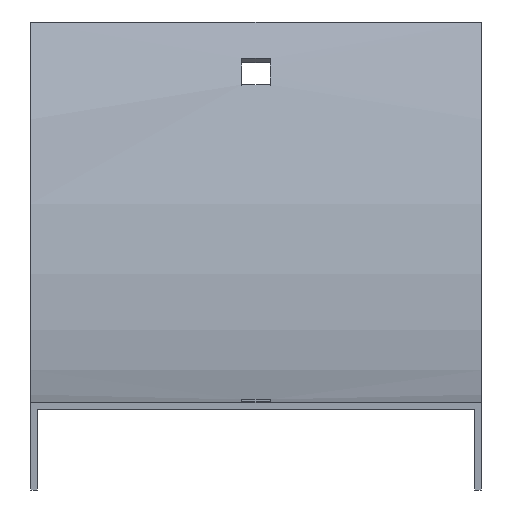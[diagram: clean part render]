
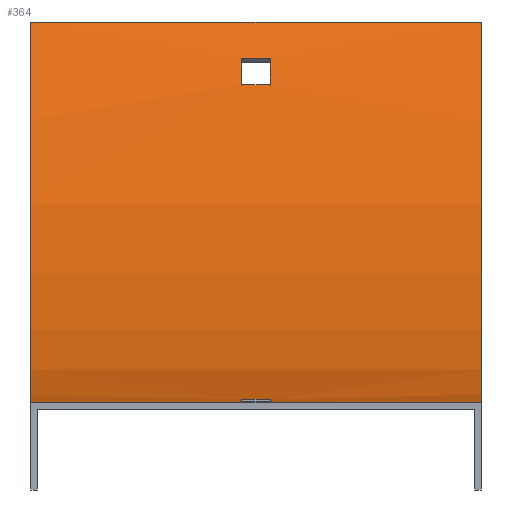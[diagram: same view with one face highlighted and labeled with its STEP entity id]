
A CAD part, top view. The second image highlights one B-rep face of the part: STEP entity #364.
In plain terms, the highlighted cylindrical face has radius 298.5 mm (diameter 597 mm), a partial arc.
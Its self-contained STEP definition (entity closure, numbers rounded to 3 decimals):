
#2 = DIRECTION ( 'NONE',  ( -1., 0., 0. ) ) ;
#9 = VERTEX_POINT ( 'NONE', #452 ) ;
#10 = AXIS2_PLACEMENT_3D ( 'NONE', #527, #116, #486 ) ;
#17 = VECTOR ( 'NONE', #209, 1000. ) ;
#31 = VERTEX_POINT ( 'NONE', #562 ) ;
#33 = ORIENTED_EDGE ( 'NONE', *, *, #466, .T. ) ;
#39 = VERTEX_POINT ( 'NONE', #192 ) ;
#43 = CIRCLE ( 'NONE', #122, 298.5 ) ;
#44 = AXIS2_PLACEMENT_3D ( 'NONE', #298, #559, #287 ) ;
#53 = CARTESIAN_POINT ( 'NONE',  ( 51.5, 0., 0. ) ) ;
#61 = DIRECTION ( 'NONE',  ( -1., 0., 0. ) ) ;
#63 = LINE ( 'NONE', #248, #309 ) ;
#85 = CIRCLE ( 'NONE', #228, 298.5 ) ;
#86 = EDGE_LOOP ( 'NONE', ( #296, #578, #308, #457 ) ) ;
#87 = EDGE_CURVE ( 'NONE', #409, #590, #479, .T. ) ;
#95 = EDGE_CURVE ( 'NONE', #545, #206, #85, .T. ) ;
#99 = AXIS2_PLACEMENT_3D ( 'NONE', #295, #61, #223 ) ;
#103 = EDGE_CURVE ( 'NONE', #39, #393, #606, .T. ) ;
#106 = DIRECTION ( 'NONE',  ( -1., 0., 0. ) ) ;
#109 = LINE ( 'NONE', #387, #159 ) ;
#116 = DIRECTION ( 'NONE',  ( -1., 0., 0. ) ) ;
#121 = VERTEX_POINT ( 'NONE', #551 ) ;
#122 = AXIS2_PLACEMENT_3D ( 'NONE', #417, #554, #607 ) ;
#135 = CARTESIAN_POINT ( 'NONE',  ( 51.5, 298.5, 0. ) ) ;
#152 = DIRECTION ( 'NONE',  ( -1., 0., 0. ) ) ;
#159 = VECTOR ( 'NONE', #346, 1000. ) ;
#165 = CARTESIAN_POINT ( 'NONE',  ( 51.5, 0.74, -21. ) ) ;
#167 = EDGE_CURVE ( 'NONE', #393, #31, #63, .T. ) ;
#178 = VECTOR ( 'NONE', #276, 1000. ) ;
#192 = CARTESIAN_POINT ( 'NONE',  ( 51.5, 87.429, -211.071 ) ) ;
#194 = CIRCLE ( 'NONE', #44, 298.5 ) ;
#196 = ORIENTED_EDGE ( 'NONE', *, *, #415, .F. ) ;
#198 = CARTESIAN_POINT ( 'NONE',  ( 51.5, 79.114, -202.415 ) ) ;
#206 = VERTEX_POINT ( 'NONE', #328 ) ;
#209 = DIRECTION ( 'NONE',  ( -1., 0., 0. ) ) ;
#213 = CARTESIAN_POINT ( 'NONE',  ( 51.5, 87.429, -211.071 ) ) ;
#223 = DIRECTION ( 'NONE',  ( 0., 0., -1. ) ) ;
#228 = AXIS2_PLACEMENT_3D ( 'NONE', #242, #106, #505 ) ;
#235 = AXIS2_PLACEMENT_3D ( 'NONE', #249, #152, #472 ) ;
#238 = DIRECTION ( 'NONE',  ( -1., 0., 0. ) ) ;
#242 = CARTESIAN_POINT ( 'NONE',  ( 3.25, 298.5, 0. ) ) ;
#248 = CARTESIAN_POINT ( 'NONE',  ( 51.5, 0., 0. ) ) ;
#249 = CARTESIAN_POINT ( 'NONE',  ( 51.5, 298.5, 0. ) ) ;
#258 = DIRECTION ( 'NONE',  ( -1., 0., 0. ) ) ;
#261 = VERTEX_POINT ( 'NONE', #511 ) ;
#262 = DIRECTION ( 'NONE',  ( 1., 0., 0. ) ) ;
#273 = ORIENTED_EDGE ( 'NONE', *, *, #588, .F. ) ;
#276 = DIRECTION ( 'NONE',  ( -1., 0., 0. ) ) ;
#285 = CARTESIAN_POINT ( 'NONE',  ( -3.25, 0.241, -12. ) ) ;
#287 = DIRECTION ( 'NONE',  ( 0., 0., 1. ) ) ;
#295 = CARTESIAN_POINT ( 'NONE',  ( -3.25, 298.5, 0. ) ) ;
#296 = ORIENTED_EDGE ( 'NONE', *, *, #324, .T. ) ;
#298 = CARTESIAN_POINT ( 'NONE',  ( 3.25, 298.5, 0. ) ) ;
#299 = ORIENTED_EDGE ( 'NONE', *, *, #87, .F. ) ;
#302 = EDGE_LOOP ( 'NONE', ( #196, #299, #273, #482 ) ) ;
#303 = EDGE_CURVE ( 'NONE', #347, #121, #43, .T. ) ;
#306 = LINE ( 'NONE', #213, #17 ) ;
#308 = ORIENTED_EDGE ( 'NONE', *, *, #103, .F. ) ;
#309 = VECTOR ( 'NONE', #2, 1000. ) ;
#324 = EDGE_CURVE ( 'NONE', #261, #31, #445, .T. ) ;
#327 = VECTOR ( 'NONE', #258, 1000. ) ;
#328 = CARTESIAN_POINT ( 'NONE',  ( 3.25, 0.241, -12. ) ) ;
#330 = EDGE_CURVE ( 'NONE', #9, #569, #109, .T. ) ;
#344 = CARTESIAN_POINT ( 'NONE',  ( 3.25, 73.102, -195.699 ) ) ;
#345 = ORIENTED_EDGE ( 'NONE', *, *, #95, .T. ) ;
#346 = DIRECTION ( 'NONE',  ( 1., 0., 0. ) ) ;
#347 = VERTEX_POINT ( 'NONE', #285 ) ;
#348 = FACE_BOUND ( 'NONE', #354, .T. ) ;
#354 = EDGE_LOOP ( 'NONE', ( #33, #539, #384, #345 ) ) ;
#364 = ADVANCED_FACE ( 'NONE', ( #380, #348, #484 ), #558, .F. ) ;
#380 = FACE_OUTER_BOUND ( 'NONE', #86, .T. ) ;
#384 = ORIENTED_EDGE ( 'NONE', *, *, #474, .T. ) ;
#387 = CARTESIAN_POINT ( 'NONE',  ( 51.5, 73.102, -195.699 ) ) ;
#393 = VERTEX_POINT ( 'NONE', #53 ) ;
#395 = LINE ( 'NONE', #576, #327 ) ;
#409 = VERTEX_POINT ( 'NONE', #518 ) ;
#414 = VECTOR ( 'NONE', #262, 1000. ) ;
#415 = EDGE_CURVE ( 'NONE', #590, #9, #552, .T. ) ;
#417 = CARTESIAN_POINT ( 'NONE',  ( -3.25, 298.5, 0. ) ) ;
#445 = CIRCLE ( 'NONE', #10, 298.5 ) ;
#452 = CARTESIAN_POINT ( 'NONE',  ( -3.25, 73.102, -195.699 ) ) ;
#455 = EDGE_CURVE ( 'NONE', #39, #261, #306, .T. ) ;
#457 = ORIENTED_EDGE ( 'NONE', *, *, #455, .T. ) ;
#463 = AXIS2_PLACEMENT_3D ( 'NONE', #135, #238, #600 ) ;
#466 = EDGE_CURVE ( 'NONE', #206, #347, #395, .T. ) ;
#472 = DIRECTION ( 'NONE',  ( 0., 0., 1. ) ) ;
#474 = EDGE_CURVE ( 'NONE', #121, #545, #580, .T. ) ;
#479 = LINE ( 'NONE', #198, #178 ) ;
#482 = ORIENTED_EDGE ( 'NONE', *, *, #330, .F. ) ;
#484 = FACE_BOUND ( 'NONE', #302, .T. ) ;
#486 = DIRECTION ( 'NONE',  ( 0., 0., 1. ) ) ;
#505 = DIRECTION ( 'NONE',  ( 0., 0., -1. ) ) ;
#511 = CARTESIAN_POINT ( 'NONE',  ( -51.5, 87.429, -211.071 ) ) ;
#518 = CARTESIAN_POINT ( 'NONE',  ( 3.25, 79.114, -202.415 ) ) ;
#521 = CARTESIAN_POINT ( 'NONE',  ( -3.25, 79.114, -202.415 ) ) ;
#527 = CARTESIAN_POINT ( 'NONE',  ( -51.5, 298.5, 0. ) ) ;
#539 = ORIENTED_EDGE ( 'NONE', *, *, #303, .T. ) ;
#545 = VERTEX_POINT ( 'NONE', #550 ) ;
#550 = CARTESIAN_POINT ( 'NONE',  ( 3.25, 0.74, -21. ) ) ;
#551 = CARTESIAN_POINT ( 'NONE',  ( -3.25, 0.74, -21. ) ) ;
#552 = CIRCLE ( 'NONE', #99, 298.5 ) ;
#554 = DIRECTION ( 'NONE',  ( 1., 0., 0. ) ) ;
#558 = CYLINDRICAL_SURFACE ( 'NONE', #235, 298.5 ) ;
#559 = DIRECTION ( 'NONE',  ( 1., 0., 0. ) ) ;
#562 = CARTESIAN_POINT ( 'NONE',  ( -51.5, 0., 0. ) ) ;
#569 = VERTEX_POINT ( 'NONE', #344 ) ;
#576 = CARTESIAN_POINT ( 'NONE',  ( 51.5, 0.241, -12. ) ) ;
#578 = ORIENTED_EDGE ( 'NONE', *, *, #167, .F. ) ;
#580 = LINE ( 'NONE', #165, #414 ) ;
#588 = EDGE_CURVE ( 'NONE', #569, #409, #194, .T. ) ;
#590 = VERTEX_POINT ( 'NONE', #521 ) ;
#600 = DIRECTION ( 'NONE',  ( 0., 0., 1. ) ) ;
#606 = CIRCLE ( 'NONE', #463, 298.5 ) ;
#607 = DIRECTION ( 'NONE',  ( 0., 0., 1. ) ) ;
